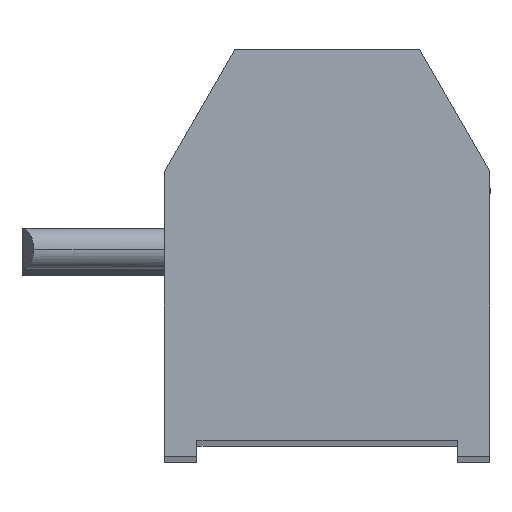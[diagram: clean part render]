
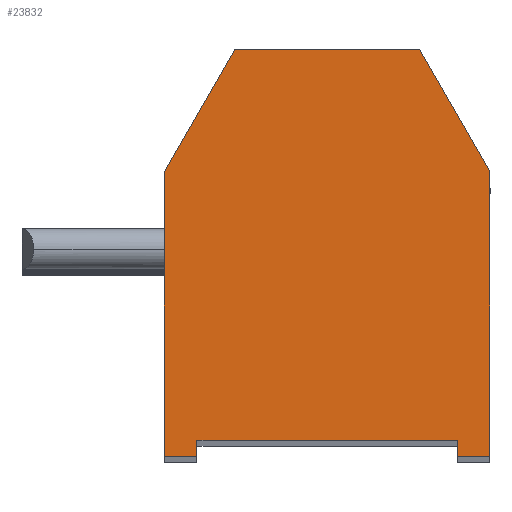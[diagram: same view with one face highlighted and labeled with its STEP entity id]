
A CAD part, top view. The second image highlights one B-rep face of the part: STEP entity #23832.
In plain terms, the highlighted planar face has unit normal (0, 0, 1).
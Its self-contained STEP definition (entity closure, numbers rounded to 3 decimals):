
#2519 = DIRECTION ( 'NONE',  ( -1., 0., 0. ) ) ;
#2520 = DIRECTION ( 'NONE',  ( 0., 0., -1. ) ) ;
#2521 = CARTESIAN_POINT ( 'NONE',  ( 4., 0., 0. ) ) ;
#2522 = AXIS2_PLACEMENT_3D ( 'NONE', #2521, #2520, #2519 ) ;
#2523 = PLANE ( 'NONE',  #2522 ) ;
#2530 = LINE ( 'NONE', #2568, #2567 ) ;
#2531 = FACE_OUTER_BOUND ( 'NONE', #23833, .T. ) ;
#2564 = CARTESIAN_POINT ( 'NONE',  ( -2.268, 10., 0. ) ) ;
#2565 = CARTESIAN_POINT ( 'NONE',  ( 2.268, 10., 0. ) ) ;
#2566 = DIRECTION ( 'NONE',  ( -1., 0., 0. ) ) ;
#2567 = VECTOR ( 'NONE', #2566, 1000. ) ;
#2568 = CARTESIAN_POINT ( 'NONE',  ( 0., 10., 0. ) ) ;
#2656 = DIRECTION ( 'NONE',  ( -0.5, 0.866, 0. ) ) ;
#2657 = VECTOR ( 'NONE', #2656, 1000. ) ;
#2658 = CARTESIAN_POINT ( 'NONE',  ( 3.134, 8.5, 0. ) ) ;
#2659 = LINE ( 'NONE', #2658, #2657 ) ;
#2660 = DIRECTION ( 'NONE',  ( -0.5, -0.866, 0. ) ) ;
#2661 = VECTOR ( 'NONE', #2660, 1000. ) ;
#2662 = CARTESIAN_POINT ( 'NONE',  ( -3.134, 8.5, 0. ) ) ;
#2663 = LINE ( 'NONE', #2662, #2661 ) ;
#8547 = CARTESIAN_POINT ( 'NONE',  ( -4., 0., 0. ) ) ;
#8548 = DIRECTION ( 'NONE',  ( 1., 0., 0. ) ) ;
#8549 = VECTOR ( 'NONE', #8548, 1000. ) ;
#8550 = CARTESIAN_POINT ( 'NONE',  ( -3.6, 0., 0. ) ) ;
#8551 = LINE ( 'NONE', #8550, #8549 ) ;
#8552 = CARTESIAN_POINT ( 'NONE',  ( -3.2, 0., 0. ) ) ;
#20125 = EDGE_CURVE ( 'NONE', #38448, #38070, #42782, .T. ) ;
#20157 = EDGE_CURVE ( 'NONE', #30108, #20159, #42818, .T. ) ;
#20159 = VERTEX_POINT ( 'NONE', #42814 ) ;
#20395 = VERTEX_POINT ( 'NONE', #42908 ) ;
#20398 = EDGE_CURVE ( 'NONE', #20395, #38441, #42907, .T. ) ;
#22002 = CARTESIAN_POINT ( 'NONE',  ( -3.2, 0.4, 0. ) ) ;
#23294 = CARTESIAN_POINT ( 'NONE',  ( 3.2, 0.4, 0. ) ) ;
#23296 = DIRECTION ( 'NONE',  ( 0., -1., 0. ) ) ;
#23297 = VECTOR ( 'NONE', #23296, 1000. ) ;
#23298 = CARTESIAN_POINT ( 'NONE',  ( 3.2, 0.2, 0. ) ) ;
#23299 = LINE ( 'NONE', #23298, #23297 ) ;
#23305 = CARTESIAN_POINT ( 'NONE',  ( 3.2, 0., 0. ) ) ;
#23317 = DIRECTION ( 'NONE',  ( 1., 0., 0. ) ) ;
#23319 = VECTOR ( 'NONE', #23317, 1000. ) ;
#23320 = CARTESIAN_POINT ( 'NONE',  ( 3.6, 0., 0. ) ) ;
#23322 = LINE ( 'NONE', #23320, #23319 ) ;
#23325 = CARTESIAN_POINT ( 'NONE',  ( 4., 0., 0. ) ) ;
#23543 = DIRECTION ( 'NONE',  ( 0., 1., 0. ) ) ;
#23545 = VECTOR ( 'NONE', #23543, 1000. ) ;
#23546 = CARTESIAN_POINT ( 'NONE',  ( -3.2, 0.2, 0. ) ) ;
#23548 = LINE ( 'NONE', #23546, #23545 ) ;
#23832 = ADVANCED_FACE ( 'NONE', ( #2531 ), #2523, .F. ) ;
#23833 = EDGE_LOOP ( 'NONE', ( #23834, #23949, #23951, #23954, #23957, #23958, #23959, #23960, #23961, #23963 ) ) ;
#23834 = ORIENTED_EDGE ( 'NONE', *, *, #23836, .T. ) ;
#23836 = EDGE_CURVE ( 'NONE', #23838, #23841, #2530, .T. ) ;
#23838 = VERTEX_POINT ( 'NONE', #2565 ) ;
#23841 = VERTEX_POINT ( 'NONE', #2564 ) ;
#23949 = ORIENTED_EDGE ( 'NONE', *, *, #23950, .T. ) ;
#23950 = EDGE_CURVE ( 'NONE', #23841, #20159, #2663, .T. ) ;
#23951 = ORIENTED_EDGE ( 'NONE', *, *, #20157, .F. ) ;
#23954 = ORIENTED_EDGE ( 'NONE', *, *, #30107, .T. ) ;
#23957 = ORIENTED_EDGE ( 'NONE', *, *, #38514, .T. ) ;
#23958 = ORIENTED_EDGE ( 'NONE', *, *, #20125, .F. ) ;
#23959 = ORIENTED_EDGE ( 'NONE', *, *, #38447, .T. ) ;
#23960 = ORIENTED_EDGE ( 'NONE', *, *, #38443, .T. ) ;
#23961 = ORIENTED_EDGE ( 'NONE', *, *, #20398, .F. ) ;
#23963 = ORIENTED_EDGE ( 'NONE', *, *, #23965, .T. ) ;
#23965 = EDGE_CURVE ( 'NONE', #20395, #23838, #2659, .T. ) ;
#30105 = VERTEX_POINT ( 'NONE', #8552 ) ;
#30107 = EDGE_CURVE ( 'NONE', #30108, #30105, #8551, .T. ) ;
#30108 = VERTEX_POINT ( 'NONE', #8547 ) ;
#38070 = VERTEX_POINT ( 'NONE', #22002 ) ;
#38441 = VERTEX_POINT ( 'NONE', #23325 ) ;
#38443 = EDGE_CURVE ( 'NONE', #38445, #38441, #23322, .T. ) ;
#38445 = VERTEX_POINT ( 'NONE', #23305 ) ;
#38447 = EDGE_CURVE ( 'NONE', #38448, #38445, #23299, .T. ) ;
#38448 = VERTEX_POINT ( 'NONE', #23294 ) ;
#38514 = EDGE_CURVE ( 'NONE', #30105, #38070, #23548, .T. ) ;
#42779 = DIRECTION ( 'NONE',  ( -1., 0., 0. ) ) ;
#42780 = VECTOR ( 'NONE', #42779, 1000. ) ;
#42781 = CARTESIAN_POINT ( 'NONE',  ( 0., 0.4, 0. ) ) ;
#42782 = LINE ( 'NONE', #42781, #42780 ) ;
#42814 = CARTESIAN_POINT ( 'NONE',  ( -4., 7., 0. ) ) ;
#42815 = DIRECTION ( 'NONE',  ( 0., 1., 0. ) ) ;
#42816 = VECTOR ( 'NONE', #42815, 1000. ) ;
#42817 = CARTESIAN_POINT ( 'NONE',  ( -4., 0., 0. ) ) ;
#42818 = LINE ( 'NONE', #42817, #42816 ) ;
#42904 = DIRECTION ( 'NONE',  ( 0., -1., 0. ) ) ;
#42905 = VECTOR ( 'NONE', #42904, 1000. ) ;
#42906 = CARTESIAN_POINT ( 'NONE',  ( 4., 5., 0. ) ) ;
#42907 = LINE ( 'NONE', #42906, #42905 ) ;
#42908 = CARTESIAN_POINT ( 'NONE',  ( 4., 7., 0. ) ) ;
